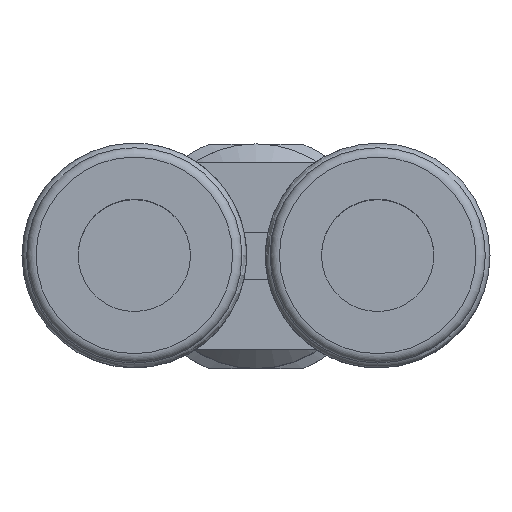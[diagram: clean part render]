
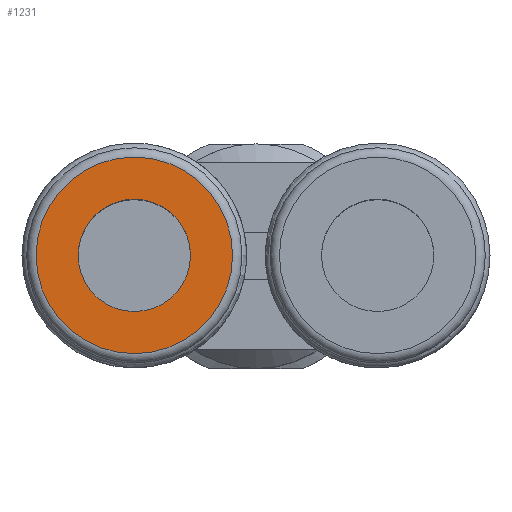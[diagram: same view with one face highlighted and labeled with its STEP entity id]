
A CAD part, top view. The second image highlights one B-rep face of the part: STEP entity #1231.
In plain terms, the highlighted planar face has unit normal (0, 0, 1).
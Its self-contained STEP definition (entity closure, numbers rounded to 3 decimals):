
#211=PLANE($,#1355);
#239=FACE_BOUND($,#385,.T.);
#240=FACE_BOUND($,#386,.T.);
#385=EDGE_LOOP($,(#962));
#386=EDGE_LOOP($,(#963));
#487=CIRCLE($,#1347,3.);
#489=CIRCLE($,#1351,5.25);
#578=VERTEX_POINT($,#2047);
#580=VERTEX_POINT($,#2053);
#717=EDGE_CURVE($,#578,#578,#487,.T.);
#719=EDGE_CURVE($,#580,#580,#489,.T.);
#962=ORIENTED_EDGE($,*,*,#717,.F.);
#963=ORIENTED_EDGE($,*,*,#719,.T.);
#1231=ADVANCED_FACE($,(#239,#240),#211,.T.);
#1347=AXIS2_PLACEMENT_3D($,#2048,#1590,#1591);
#1351=AXIS2_PLACEMENT_3D($,#2054,#1598,#1599);
#1355=AXIS2_PLACEMENT_3D($,#2060,#1606,#1607);
#1590=DIRECTION('center_axis',(0.,0.,1.));
#1591=DIRECTION('ref_axis',(-1.,0.,0.));
#1598=DIRECTION('center_axis',(0.,0.,1.));
#1599=DIRECTION('ref_axis',(1.,0.,0.));
#1606=DIRECTION('center_axis',(0.,0.,1.));
#1607=DIRECTION('ref_axis',(1.,0.,0.));
#2047=CARTESIAN_POINT('',(-9.5,0.,30.1));
#2048=CARTESIAN_POINT('Origin',(-6.5,0.,30.1));
#2053=CARTESIAN_POINT('',(-11.75,0.,30.1));
#2054=CARTESIAN_POINT('Origin',(-6.5,0.,30.1));
#2060=CARTESIAN_POINT('Origin',(-6.5,0.,30.1));
